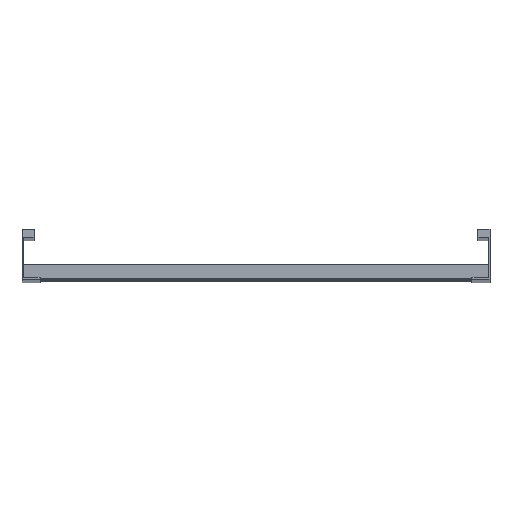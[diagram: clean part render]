
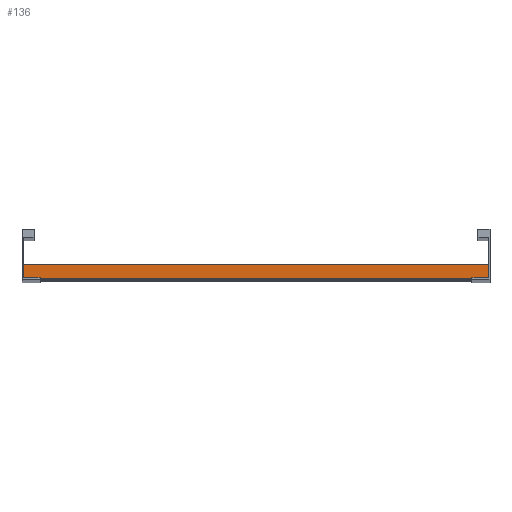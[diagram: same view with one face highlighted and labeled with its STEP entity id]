
A CAD part, top view. The second image highlights one B-rep face of the part: STEP entity #136.
In plain terms, the highlighted planar face has unit normal (0, 0, 1).
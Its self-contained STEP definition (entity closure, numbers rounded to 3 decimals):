
#100 = LINE ( 'NONE', #618, #1035 ) ;
#136 = ADVANCED_FACE ( 'NONE', ( #1335 ), #662, .F. ) ;
#148 = DIRECTION ( 'NONE',  ( 0., -1., 0. ) ) ;
#286 = AXIS2_PLACEMENT_3D ( 'NONE', #937, #419, #1473 ) ;
#344 = VECTOR ( 'NONE', #429, 1000. ) ;
#351 = CARTESIAN_POINT ( 'NONE',  ( 348., 0., 20.25 ) ) ;
#382 = VECTOR ( 'NONE', #148, 1000. ) ;
#419 = DIRECTION ( 'NONE',  ( 0., 0., -1. ) ) ;
#429 = DIRECTION ( 'NONE',  ( 0., -1., 0. ) ) ;
#500 = EDGE_CURVE ( 'NONE', #1503, #1663, #1657, .T. ) ;
#554 = EDGE_CURVE ( 'NONE', #700, #1663, #974, .T. ) ;
#555 = VERTEX_POINT ( 'NONE', #828 ) ;
#618 = CARTESIAN_POINT ( 'NONE',  ( 348., 20., 20.25 ) ) ;
#659 = CARTESIAN_POINT ( 'NONE',  ( -348., 0., 20.25 ) ) ;
#662 = PLANE ( 'NONE',  #286 ) ;
#693 = EDGE_LOOP ( 'NONE', ( #1234, #1015, #1230, #1132 ) ) ;
#700 = VERTEX_POINT ( 'NONE', #351 ) ;
#757 = VECTOR ( 'NONE', #1244, 1000. ) ;
#802 = CARTESIAN_POINT ( 'NONE',  ( 348., 20., 20.25 ) ) ;
#828 = CARTESIAN_POINT ( 'NONE',  ( 348., 20., 20.25 ) ) ;
#937 = CARTESIAN_POINT ( 'NONE',  ( 348., 20., 20.25 ) ) ;
#974 = LINE ( 'NONE', #1117, #757 ) ;
#1015 = ORIENTED_EDGE ( 'NONE', *, *, #554, .F. ) ;
#1035 = VECTOR ( 'NONE', #1143, 1000. ) ;
#1117 = CARTESIAN_POINT ( 'NONE',  ( 348., 0., 20.25 ) ) ;
#1132 = ORIENTED_EDGE ( 'NONE', *, *, #1508, .T. ) ;
#1143 = DIRECTION ( 'NONE',  ( -1., 0., 0. ) ) ;
#1170 = CARTESIAN_POINT ( 'NONE',  ( -348., 20., 20.25 ) ) ;
#1230 = ORIENTED_EDGE ( 'NONE', *, *, #1714, .F. ) ;
#1234 = ORIENTED_EDGE ( 'NONE', *, *, #500, .T. ) ;
#1244 = DIRECTION ( 'NONE',  ( -1., 0., 0. ) ) ;
#1335 = FACE_OUTER_BOUND ( 'NONE', #693, .T. ) ;
#1386 = CARTESIAN_POINT ( 'NONE',  ( -348., 20., 20.25 ) ) ;
#1473 = DIRECTION ( 'NONE',  ( 0., 1., 0. ) ) ;
#1503 = VERTEX_POINT ( 'NONE', #1170 ) ;
#1508 = EDGE_CURVE ( 'NONE', #555, #1503, #100, .T. ) ;
#1617 = LINE ( 'NONE', #802, #382 ) ;
#1657 = LINE ( 'NONE', #1386, #344 ) ;
#1663 = VERTEX_POINT ( 'NONE', #659 ) ;
#1714 = EDGE_CURVE ( 'NONE', #555, #700, #1617, .T. ) ;
